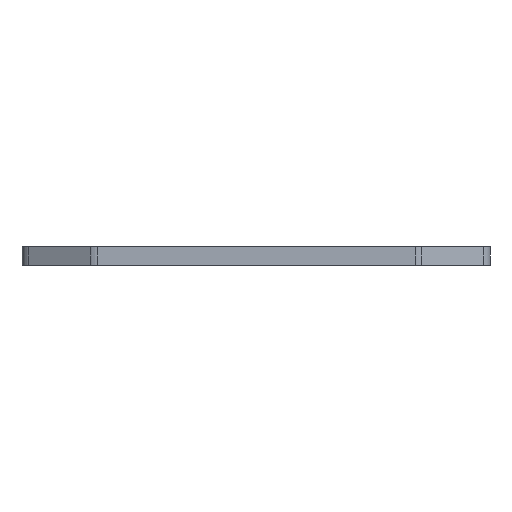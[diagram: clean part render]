
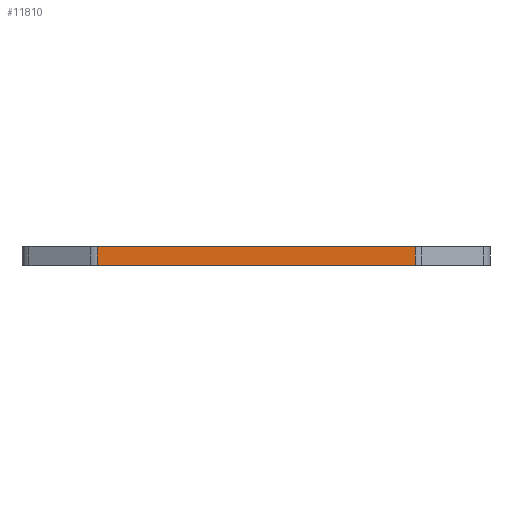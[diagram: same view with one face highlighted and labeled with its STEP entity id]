
A CAD part, front view. The second image highlights one B-rep face of the part: STEP entity #11810.
In plain terms, the highlighted planar face has unit normal (0, -1, 0).
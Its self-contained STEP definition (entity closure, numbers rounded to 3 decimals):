
#1280=CARTESIAN_POINT('',(15.033,-58.25,
2.2));
#1290=VERTEX_POINT('',#1280);
#1320=CARTESIAN_POINT('',(47.92,-58.25,2.2))
;
#1330=DIRECTION('',(-1.,0.,0.));
#1340=VECTOR('',#1330,1.);
#1350=LINE('',#1320,#1340);
#1360=CARTESIAN_POINT('',(53.654,-58.25,
2.2));
#1370=VERTEX_POINT('',#1360);
#1380=EDGE_CURVE('',#1370,#1290,#1350,.T.);
#5340=CARTESIAN_POINT('',(53.654,-58.25,
4.4));
#5350=VERTEX_POINT('',#5340);
#5380=CARTESIAN_POINT('',(47.92,-58.25,4.4))
;
#5390=DIRECTION('',(-1.,0.,0.));
#5400=VECTOR('',#5390,1.);
#5410=LINE('',#5380,#5400);
#5420=CARTESIAN_POINT('',(15.033,-58.25,
4.4));
#5430=VERTEX_POINT('',#5420);
#5440=EDGE_CURVE('',#5350,#5430,#5410,.T.);
#7630=CARTESIAN_POINT('',(53.654,-58.25,
0.));
#7640=DIRECTION('',(0.,0.,-1.));
#7650=VECTOR('',#7640,1.);
#7660=LINE('',#7630,#7650);
#7670=EDGE_CURVE('',#5350,#1370,#7660,.T.);
#8000=CARTESIAN_POINT('',(15.033,-58.25,
2.2));
#8010=DIRECTION('',(0.,0.,1.));
#8020=VECTOR('',#8010,1.);
#8030=LINE('',#8000,#8020);
#8040=EDGE_CURVE('',#1290,#5430,#8030,.T.);
#11700=CARTESIAN_POINT('',(53.654,-58.25,
2.2));
#11710=DIRECTION('',(0.,-1.,0.));
#11720=DIRECTION('',(-1.,-0.,0.));
#11730=AXIS2_PLACEMENT_3D('',#11700,#11710,#11720);
#11740=PLANE('',#11730);
#11750=ORIENTED_EDGE('',*,*,#8040,.F.);
#11760=ORIENTED_EDGE('',*,*,#5440,.T.);
#11770=ORIENTED_EDGE('',*,*,#7670,.F.);
#11780=ORIENTED_EDGE('',*,*,#1380,.F.);
#11790=EDGE_LOOP('',(#11780,#11770,#11760,#11750));
#11800=FACE_OUTER_BOUND('',#11790,.T.);
#11810=ADVANCED_FACE('',(#11800),#11740,.T.);
